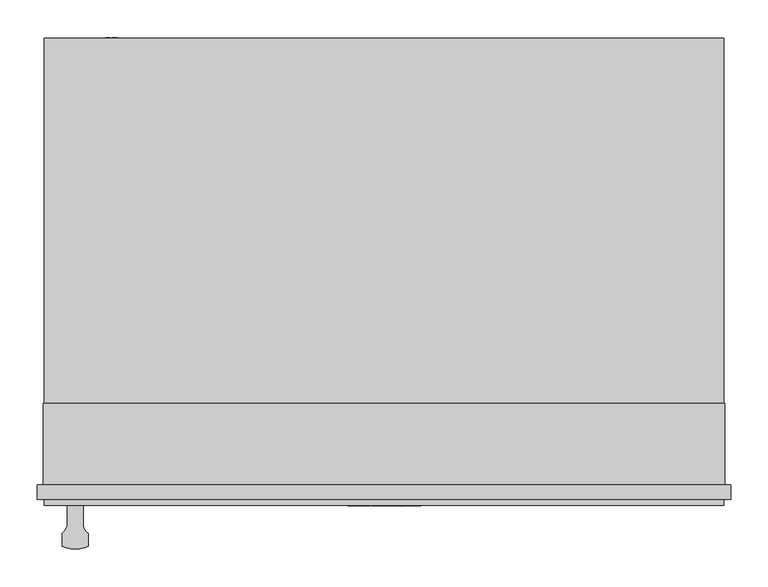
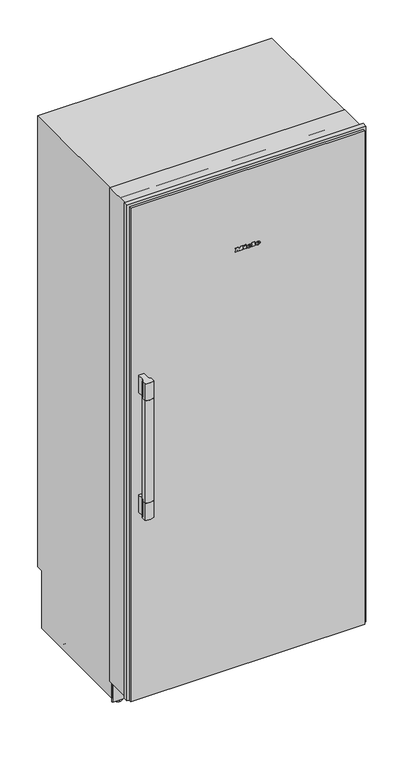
"""IFC4 building model written with IfcOpenShell, lengths in millimetres: proxy geometry, 11502840_USA_K2902SF : 36290211_USA_11502840_K2902SF."""

from ifc_helpers import new_model, si_unit, point, frame, frame_2d, origin, place, context, project, spatial, polyline, circle_curve, ellipse_curve, trimmed, segment, composite_curve, outline, extrude, faceted_brep, source, transform, mapped, element, save
from ifc_brep_helpers import plane_surface, cylinder_surface, revolved_surface, extruded_surface, advanced_brep


def specialty_equipment_e287ddbb(model_context):
    return source(origin(), model_context, "Body", "SolidModel", [
        extrude(outline(polyline([(-443.0, 68.0), (443.0, 68.0), (443.0, 21.0), (-443.0, 21.0), (-443.0, 68.0)])), frame((0.0, 0.0, 265.0), z_axis=(0.0, 0.0, 1.0), x_axis=(1.0, 0.0, 0.0)), (0.0, 0.0, 1.0), 1771.0),
        extrude(outline(polyline([(-289.0, 50.0), (289.0, 50.0), (289.0, 21.0), (-289.0, 21.0), (-289.0, 50.0)])), frame((0.0, 0.0, 2036.0), z_axis=(0.0, 0.0, 1.0), x_axis=(1.0, 0.0, 0.0)), (0.0, 0.0, 1.0), 56.0),
        extrude(outline(polyline([(265.0, 21.0), (265.0, 0.0), (265.0, -21.0), (224.0, -21.0), (224.0, -6.5), (99.0, -6.5), (99.0, 0.0), (99.0, 6.5), (224.0, 6.5), (224.0, 21.0), (265.0, 21.0)])), frame((0.0, 21.0, 0.0), z_axis=(0.0, 1.0, 0.0), x_axis=(0.0, 0.0, 1.0)), (0.0, 0.0, 1.0), 54.0),
        extrude(outline(polyline([(-454.0, 21.0), (454.0, 21.0), (454.0, 0.0), (-454.0, 0.0), (-454.0, 21.0)])), frame((0.0, 0.0, 90.0), z_axis=(0.0, 0.0, 1.0), x_axis=(1.0, 0.0, 0.0)), (0.0, 0.0, 1.0), 2023.0),
        advanced_brep(
        [(-402.5, 0.0, 928.0), (-423.5, 0.0, 928.0), (-423.5, -24.4390599, 928.0), (-430.5, -37.4390599, 928.0), (-430.5, -55.0, 928.0), (-413.0, -59.0, 928.0), (-395.5, -55.0, 928.0), (-395.5, -37.4390599, 928.0), (-402.5, -24.4390599, 928.0), (-395.5, -37.4390599, 858.0), (-395.5, -55.0, 858.0), (-413.0, -59.0, 858.0), (-430.5, -55.0, 858.0), (-430.5, -37.4390599, 858.0), (-423.5, -24.4390599, 858.0), (-423.5, 0.0, 858.0), (-402.5, 0.0, 858.0), (-402.5, -24.4390599, 858.0)],
        [
            (0, 1),
            (1, 2),
            (2, 3, circle_curve(frame((-439.0714286, -24.4390599, 928.0), z_axis=(0.0, 0.0, -1.0), x_axis=(-1.0, 0.0, 0.0)), 15.5714286)),
            (3, 4),
            (4, 5, circle_curve(frame((-413.0, -18.71875, 928.0), z_axis=(0.0, 0.0, 1.0), x_axis=(-1.0, 0.0, 0.0)), 40.28125)),
            (5, 6, circle_curve(frame((-413.0, -18.71875, 928.0), z_axis=(0.0, 0.0, 1.0), x_axis=(-1.0, 0.0, 0.0)), 40.28125)),
            (6, 7),
            (7, 8, circle_curve(frame((-386.9285714, -24.4390599, 928.0), z_axis=(0.0, 0.0, -1.0), x_axis=(-1.0, 0.0, 0.0)), 15.5714286)),
            (8, 0),
            (9, 10),
            (10, 11, circle_curve(frame((-413.0, -18.71875, 858.0), z_axis=(0.0, 0.0, -1.0), x_axis=(-1.0, 0.0, 0.0)), 40.28125)),
            (11, 12, circle_curve(frame((-413.0, -18.71875, 858.0), z_axis=(0.0, 0.0, -1.0), x_axis=(-1.0, 0.0, 0.0)), 40.28125)),
            (12, 13),
            (13, 14, circle_curve(frame((-439.0714286, -24.4390599, 858.0), z_axis=(0.0, 0.0, 1.0), x_axis=(-1.0, 0.0, 0.0)), 15.5714286)),
            (14, 15),
            (15, 16),
            (16, 17),
            (17, 9, circle_curve(frame((-386.9285714, -24.4390599, 858.0), z_axis=(0.0, 0.0, 1.0), x_axis=(-1.0, 0.0, 0.0)), 15.5714286)),
            (0, 16),
            (15, 1),
            (3, 13),
            (12, 4),
            (6, 10),
            (9, 7),
            (14, 2),
            (8, 17),
        ],
        [
            plane_surface(frame((-430.5, 0.0, 928.0), z_axis=(0.0, 0.0, 1.0), x_axis=(-1.0, 0.0, 0.0))),
            plane_surface(frame((-430.5, 0.0, 858.0), z_axis=(0.0, 0.0, -1.0), x_axis=(1.0, 0.0, 0.0))),
            plane_surface(frame((-395.5, 0.0, 928.0), z_axis=(0.0, 1.0, 0.0), x_axis=(0.0, 0.0, -1.0))),
            plane_surface(frame((-430.5, 0.0, 928.0), z_axis=(-1.0, 0.0, 0.0), x_axis=(0.0, 0.0, -1.0))),
            plane_surface(frame((-395.5, -59.0, 928.0), z_axis=(1.0, 0.0, 0.0), x_axis=(0.0, 0.0, -1.0))),
            plane_surface(frame((-423.5, -24.4390599, 1418.0), z_axis=(-1.0, 0.0, 0.0), x_axis=(0.0, 0.0, -1.0))),
            plane_surface(frame((-402.5, 0.0, 1418.0), z_axis=(1.0, 0.0, 0.0), x_axis=(0.0, 0.0, -1.0))),
            cylinder_surface(frame((-413.0, -18.71875, 858.0), z_axis=(0.0, 0.0, -1.0), x_axis=(-1.0, 0.0, 0.0)), 40.28125),
            revolved_surface(polyline([(-454.6428572, -24.4390599, 928.0), (-454.6428572, -24.4390599, 858.0)]), (-439.0714286, -24.4390599, 858.0), (0.0, 0.0, 1.0)),
            revolved_surface(polyline([(-402.5, -24.4390599, 928.0), (-402.5, -24.4390599, 858.0)]), (-386.9285714, -24.4390599, 858.0), (0.0, 0.0, 1.0)),
        ],
        [
            (0, [[1, 2, 3, 4, 5, 6, 7, 8, 9]]),
            (1, [[10, 11, 12, 13, 14, 15, 16, 17, 18]]),
            (2, [[-1, 19, -16, 20]]),
            (3, [[-4, 21, -13, 22]]),
            (4, [[-7, 23, -10, 24]]),
            (5, [[25, -2, -20, -15]]),
            (6, [[26, -17, -19, -9]]),
            (7, [[-5, -22, -12, -11, -23, -6]]),
            (8, [[-25, -14, -21, -3]]),
            (9, [[-26, -8, -24, -18]]),
        ],
    ),
        advanced_brep(
        [(-395.5, -37.4390599, 928.0), (-395.5, -55.0, 928.0), (-413.0, -59.0, 928.0), (-430.5, -55.0, 928.0), (-430.5, -37.4390599, 928.0), (-428.6400312, -36.0, 928.0), (-397.3599688, -36.0, 928.0), (-397.3599688, -36.0, 1348.0), (-428.6400312, -36.0, 1348.0), (-430.5, -37.4390599, 1348.0), (-430.5, -55.0, 1348.0), (-413.0, -59.0, 1348.0), (-395.5, -55.0, 1348.0), (-395.5, -37.4390599, 1348.0)],
        [
            (0, 1),
            (1, 2, circle_curve(frame((-413.0, -18.71875, 928.0), z_axis=(0.0, 0.0, -1.0), x_axis=(-1.0, 0.0, 0.0)), 40.28125)),
            (2, 3, circle_curve(frame((-413.0, -18.71875, 928.0), z_axis=(0.0, 0.0, -1.0), x_axis=(-1.0, 0.0, 0.0)), 40.28125)),
            (3, 4),
            (4, 5, circle_curve(frame((-439.0714286, -24.4390599, 928.0), z_axis=(0.0, 0.0, 1.0), x_axis=(-1.0, 0.0, 0.0)), 15.5714286)),
            (5, 6),
            (6, 0, circle_curve(frame((-386.9285714, -24.4390599, 928.0), z_axis=(0.0, 0.0, 1.0), x_axis=(-1.0, 0.0, 0.0)), 15.5714286)),
            (7, 8),
            (8, 9, circle_curve(frame((-439.0714286, -24.4390599, 1348.0), z_axis=(0.0, 0.0, -1.0), x_axis=(-1.0, 0.0, 0.0)), 15.5714286)),
            (9, 10),
            (10, 11, circle_curve(frame((-413.0, -18.71875, 1348.0), z_axis=(0.0, 0.0, 1.0), x_axis=(-1.0, 0.0, 0.0)), 40.28125)),
            (11, 12, circle_curve(frame((-413.0, -18.71875, 1348.0), z_axis=(0.0, 0.0, 1.0), x_axis=(-1.0, 0.0, 0.0)), 40.28125)),
            (12, 13),
            (13, 7, circle_curve(frame((-386.9285714, -24.4390599, 1348.0), z_axis=(0.0, 0.0, -1.0), x_axis=(-1.0, 0.0, 0.0)), 15.5714286)),
            (0, 13),
            (12, 1),
            (3, 10),
            (9, 4),
            (5, 8),
            (7, 6),
        ],
        [
            plane_surface(frame((-395.5, -36.0, 928.0), z_axis=(0.0, 0.0, -1.0), x_axis=(0.0, -1.0, 0.0))),
            plane_surface(frame((-395.5, -36.0, 1348.0), z_axis=(0.0, 0.0, 1.0), x_axis=(0.0, 1.0, 0.0))),
            plane_surface(frame((-395.5, -36.0, 928.0), z_axis=(1.0, 0.0, 0.0), x_axis=(0.0, 0.0, 1.0))),
            plane_surface(frame((-430.5, -59.0, 928.0), z_axis=(-1.0, 0.0, 0.0), x_axis=(0.0, 0.0, 1.0))),
            plane_surface(frame((-430.5, -36.0, 928.0), z_axis=(0.0, 1.0, 0.0), x_axis=(0.0, 0.0, 1.0))),
            cylinder_surface(frame((-413.0, -18.71875, 858.0), z_axis=(0.0, 0.0, -1.0), x_axis=(-1.0, 0.0, 0.0)), 40.28125),
            revolved_surface(polyline([(-454.6428572, -24.4390599, 1348.0), (-454.6428572, -24.4390599, 928.0)]), (-439.0714286, -24.4390599, 858.0), (0.0, 0.0, 1.0)),
            revolved_surface(polyline([(-402.5, -24.4390599, 1348.0), (-402.5, -24.4390599, 928.0)]), (-386.9285714, -24.4390599, 858.0), (0.0, 0.0, 1.0)),
        ],
        [
            (0, [[1, 2, 3, 4, 5, 6, 7]]),
            (1, [[8, 9, 10, 11, 12, 13, 14]]),
            (2, [[-1, 15, -13, 16]]),
            (3, [[-4, 17, -10, 18]]),
            (4, [[-6, 19, -8, 20]]),
            (5, [[-2, -16, -12, -11, -17, -3]]),
            (6, [[-5, -18, -9, -19]]),
            (7, [[-7, -20, -14, -15]]),
        ],
    ),
        advanced_brep(
        [(-395.5, -37.4390599, 1348.0), (-395.5, -55.0, 1348.0), (-413.0, -59.0, 1348.0), (-430.5, -55.0, 1348.0), (-430.5, -37.4390599, 1348.0), (-423.5, -24.4390599, 1348.0), (-423.5, 0.0, 1348.0), (-402.5, 0.0, 1348.0), (-402.5, -24.4390599, 1348.0), (-402.5, 0.0, 1418.0), (-423.5, 0.0, 1418.0), (-423.5, -24.4390599, 1418.0), (-430.5, -37.4390599, 1418.0), (-430.5, -55.0, 1418.0), (-413.0, -59.0, 1418.0), (-395.5, -55.0, 1418.0), (-395.5, -37.4390599, 1418.0), (-402.5, -24.4390599, 1418.0)],
        [
            (0, 1),
            (1, 2, circle_curve(frame((-413.0, -18.71875, 1348.0), z_axis=(0.0, 0.0, -1.0), x_axis=(-1.0, 0.0, 0.0)), 40.28125)),
            (2, 3, circle_curve(frame((-413.0, -18.71875, 1348.0), z_axis=(0.0, 0.0, -1.0), x_axis=(-1.0, 0.0, 0.0)), 40.28125)),
            (3, 4),
            (4, 5, circle_curve(frame((-439.0714286, -24.4390599, 1348.0), z_axis=(0.0, 0.0, 1.0), x_axis=(-1.0, 0.0, 0.0)), 15.5714286)),
            (5, 6),
            (6, 7),
            (7, 8),
            (8, 0, circle_curve(frame((-386.9285714, -24.4390599, 1348.0), z_axis=(0.0, 0.0, 1.0), x_axis=(-1.0, 0.0, 0.0)), 15.5714286)),
            (9, 10),
            (10, 11),
            (11, 12, circle_curve(frame((-439.0714286, -24.4390599, 1418.0), z_axis=(0.0, 0.0, -1.0), x_axis=(-1.0, 0.0, 0.0)), 15.5714286)),
            (12, 13),
            (13, 14, circle_curve(frame((-413.0, -18.71875, 1418.0), z_axis=(0.0, 0.0, 1.0), x_axis=(-1.0, 0.0, 0.0)), 40.28125)),
            (14, 15, circle_curve(frame((-413.0, -18.71875, 1418.0), z_axis=(0.0, 0.0, 1.0), x_axis=(-1.0, 0.0, 0.0)), 40.28125)),
            (15, 16),
            (16, 17, circle_curve(frame((-386.9285714, -24.4390599, 1418.0), z_axis=(0.0, 0.0, -1.0), x_axis=(-1.0, 0.0, 0.0)), 15.5714286)),
            (17, 9),
            (6, 10),
            (9, 7),
            (3, 13),
            (12, 4),
            (0, 16),
            (15, 1),
            (5, 11),
            (17, 8),
        ],
        [
            plane_surface(frame((-430.5, 0.0, 1348.0), z_axis=(0.0, 0.0, -1.0), x_axis=(1.0, 0.0, 0.0))),
            plane_surface(frame((-430.5, 0.0, 1418.0), z_axis=(0.0, 0.0, 1.0), x_axis=(-1.0, 0.0, 0.0))),
            plane_surface(frame((-395.5, 0.0, 1418.0), z_axis=(0.0, 1.0, 0.0), x_axis=(0.0, 0.0, -1.0))),
            plane_surface(frame((-430.5, 0.0, 1418.0), z_axis=(-1.0, 0.0, 0.0), x_axis=(0.0, 0.0, -1.0))),
            plane_surface(frame((-395.5, -59.0, 1418.0), z_axis=(1.0, 0.0, 0.0), x_axis=(0.0, 0.0, -1.0))),
            plane_surface(frame((-423.5, -24.4390599, 1418.0), z_axis=(-1.0, 0.0, 0.0), x_axis=(0.0, 0.0, -1.0))),
            plane_surface(frame((-402.5, 0.0, 1418.0), z_axis=(1.0, 0.0, 0.0), x_axis=(0.0, 0.0, -1.0))),
            cylinder_surface(frame((-413.0, -18.71875, 858.0), z_axis=(0.0, 0.0, -1.0), x_axis=(-1.0, 0.0, 0.0)), 40.28125),
            revolved_surface(polyline([(-454.6428572, -24.4390599, 1418.0), (-454.6428572, -24.4390599, 1348.0)]), (-439.0714286, -24.4390599, 858.0), (0.0, 0.0, 1.0)),
            revolved_surface(polyline([(-402.5, -24.4390599, 1418.0), (-402.5, -24.4390599, 1348.0)]), (-386.9285714, -24.4390599, 858.0), (0.0, 0.0, 1.0)),
        ],
        [
            (0, [[1, 2, 3, 4, 5, 6, 7, 8, 9]]),
            (1, [[10, 11, 12, 13, 14, 15, 16, 17, 18]]),
            (2, [[-7, 19, -10, 20]]),
            (3, [[-4, 21, -13, 22]]),
            (4, [[-1, 23, -16, 24]]),
            (5, [[25, -11, -19, -6]]),
            (6, [[26, -8, -20, -18]]),
            (7, [[-2, -24, -15, -14, -21, -3]]),
            (8, [[-25, -5, -22, -12]]),
            (9, [[-26, -17, -23, -9]]),
        ],
    ),
        advanced_brep(
        [(38.22, -1.0, 1795.792), (38.22, -1.0, 1797.408), (48.924, -1.0, 1797.408), (30.3, -1.0, 1797.408), (34.7, -1.0, 1792.0), (48.652, -1.0, 1795.792), (43.82, -1.0, 1795.792), (40.012, -1.0, 1794.0), (38.22, -1.0, 1799.456), (38.22, -1.0, 1801.2), (40.956, -1.0, 1801.2), (40.956, -1.0, 1799.456), (38.22, 0.0, 1795.792), (40.012, 0.0, 1794.0), (43.82, 0.0, 1795.792), (48.652, 0.0, 1795.792), (34.7, 0.0, 1792.0), (30.3, 0.0, 1797.408), (48.924, 0.0, 1797.408), (38.22, 0.0, 1797.408), (38.22, 0.0, 1799.456), (40.956, 0.0, 1799.456), (40.956, 0.0, 1801.2), (38.22, 0.0, 1801.2)],
        [
            (0, 1),
            (1, 2),
            (2, 3, ellipse_curve(frame((39.612, -1.0, 1797.408), z_axis=(0.0, -1.0, 0.0), x_axis=(-1.0, 0.0, 0.0)), 9.312, 7.696)),
            (3, 4, circle_curve(frame((36.4920873, -1.0, 1797.952), z_axis=(0.0, -1.0, 0.0), x_axis=(0.0, 0.0, -1.0)), 6.2159376)),
            (4, 5, circle_curve(frame((39.4255872, -1.0, 1802.176), z_axis=(0.0, -1.0, 0.0), x_axis=(0.0, 0.0, -1.0)), 11.2197215)),
            (5, 6),
            (6, 7, circle_curve(frame((40.7941176, -1.0, 1797.28), z_axis=(0.0, 1.0, 0.0), x_axis=(0.0, 0.0, -1.0)), 3.3719591)),
            (7, 0, circle_curve(frame((40.012, -1.0, 1795.792), z_axis=(0.0, 1.0, 0.0), x_axis=(0.0, 0.0, -1.0)), 1.792)),
            (8, 9),
            (9, 10, circle_curve(frame((39.588, -1.0, 1801.2), z_axis=(0.0, 1.0, 0.0), x_axis=(0.0, 0.0, -1.0)), 1.368)),
            (10, 11),
            (11, 8),
            (12, 13, circle_curve(frame((40.012, 0.0, 1795.792), z_axis=(0.0, -1.0, 0.0), x_axis=(0.0, 0.0, -1.0)), 1.792)),
            (13, 14, circle_curve(frame((40.7941176, 0.0, 1797.28), z_axis=(0.0, -1.0, 0.0), x_axis=(0.0, 0.0, -1.0)), 3.3719591)),
            (14, 15),
            (15, 16, circle_curve(frame((39.4255872, 0.0, 1802.176), z_axis=(0.0, 1.0, 0.0), x_axis=(0.0, 0.0, -1.0)), 11.2197215)),
            (16, 17, circle_curve(frame((36.4920873, 0.0, 1797.952), z_axis=(0.0, 1.0, 0.0), x_axis=(0.0, 0.0, -1.0)), 6.2159376)),
            (17, 18, ellipse_curve(frame((39.612, 0.0, 1797.408), z_axis=(0.0, 1.0, 0.0), x_axis=(-1.0, 0.0, 0.0)), 9.312, 7.696)),
            (18, 19),
            (19, 12),
            (20, 21),
            (21, 22),
            (22, 23, circle_curve(frame((39.588, 0.0, 1801.2), z_axis=(0.0, -1.0, 0.0), x_axis=(0.0, 0.0, -1.0)), 1.368)),
            (23, 20),
            (0, 12),
            (19, 1),
            (18, 2),
            (5, 15),
            (14, 6),
            (17, 3),
            (13, 7),
            (16, 4),
            (8, 20),
            (23, 9),
            (22, 10),
            (21, 11),
        ],
        [
            plane_surface(frame((38.22, -1.0, 1797.408), z_axis=(0.0, -1.0, 0.0), x_axis=(0.0, 0.0, 1.0))),
            plane_surface(frame((38.22, 0.0, 1797.408), z_axis=(0.0, 1.0, 0.0), x_axis=(0.0, 0.0, -1.0))),
            plane_surface(frame((38.22, -1.0, 1795.792), z_axis=(1.0, 0.0, 0.0), x_axis=(0.0, 1.0, 0.0))),
            plane_surface(frame((38.22, -1.0, 1797.408), z_axis=(0.0, 0.0, -1.0), x_axis=(0.0, 1.0, 0.0))),
            plane_surface(frame((48.652, -1.0, 1795.792), z_axis=(0.0, 0.0, 1.0), x_axis=(0.0, 1.0, 0.0))),
            extruded_surface(trimmed(ellipse_curve(frame((39.612, 1.0, 1797.408), z_axis=(0.0, -1.0, 0.0), x_axis=(-1.0, 0.0, 0.0)), 9.312, 7.696), [point((48.924, 1.0, 1797.408))], [point((30.3, 1.0, 1797.408))], True, "CARTESIAN"), (0.0, -1.0, 0.0), 1.0),
            revolved_surface(polyline([(40.7941176, 0.0, 1793.9080409), (40.7941176, -1.0, 1793.9080409)]), (40.7941176, 0.0, 1797.28), (0.0, 1.0, 0.0)),
            revolved_surface(polyline([(40.012, 0.0, 1794.0), (40.012, -1.0, 1794.0)]), (40.012, 0.0, 1795.792), (0.0, 1.0, 0.0)),
            cylinder_surface(frame((36.4920873, 0.0, 1797.952), z_axis=(0.0, -1.0, 0.0), x_axis=(0.0, 0.0, -1.0)), 6.2159376),
            cylinder_surface(frame((39.4255872, 0.0, 1802.176), z_axis=(0.0, -1.0, 0.0), x_axis=(0.0, 0.0, -1.0)), 11.2197215),
            plane_surface(frame((38.22, -1.0, 1799.456), z_axis=(1.0, 0.0, 0.0), x_axis=(0.0, 1.0, 0.0))),
            revolved_surface(polyline([(39.588, 0.0, 1799.832), (39.588, -1.0, 1799.832)]), (39.588, 0.0, 1801.2), (0.0, 1.0, 0.0)),
            plane_surface(frame((40.956, -1.0, 1801.2), z_axis=(-1.0, 0.0, 0.0), x_axis=(0.0, 1.0, 0.0))),
            plane_surface(frame((40.956, -1.0, 1799.456), z_axis=(0.0, 0.0, 1.0), x_axis=(0.0, 1.0, 0.0))),
        ],
        [
            (0, [[1, 2, 3, 4, 5, 6, 7, 8], [9, 10, 11, 12]]),
            (1, [[13, 14, 15, 16, 17, 18, 19, 20], [21, 22, 23, 24]]),
            (2, [[-1, 25, -20, 26]]),
            (3, [[-2, -26, -19, 27]]),
            (4, [[-6, 28, -15, 29]]),
            (5, [[-3, -27, -18, 30]]),
            (6, [[-7, -29, -14, 31]]),
            (7, [[-8, -31, -13, -25]]),
            (8, [[-4, -30, -17, 32]]),
            (9, [[-5, -32, -16, -28]]),
            (10, [[-9, 33, -24, 34]]),
            (11, [[-10, -34, -23, 35]]),
            (12, [[-11, -35, -22, 36]]),
            (13, [[-12, -36, -21, -33]]),
        ],
    ),
        advanced_brep(
        [(4.828, -1.0, 1795.792), (4.828, -1.0, 1797.408), (15.532, -1.0, 1797.408), (-3.092, -1.0, 1797.408), (1.308, -1.0, 1792.0), (15.26, -1.0, 1795.792), (10.428, -1.0, 1795.792), (6.62, -1.0, 1794.0), (4.828, -1.0, 1799.456), (4.828, -1.0, 1801.2), (7.564, -1.0, 1801.2), (7.564, -1.0, 1799.456), (4.828, 0.0, 1795.792), (6.62, 0.0, 1794.0), (10.428, 0.0, 1795.792), (15.26, 0.0, 1795.792), (1.308, 0.0, 1792.0), (-3.092, 0.0, 1797.408), (15.532, 0.0, 1797.408), (4.828, 0.0, 1797.408), (4.828, 0.0, 1799.456), (7.564, 0.0, 1799.456), (7.564, 0.0, 1801.2), (4.828, 0.0, 1801.2)],
        [
            (0, 1),
            (1, 2),
            (2, 3, ellipse_curve(frame((6.22, -1.0, 1797.408), z_axis=(0.0, -1.0, 0.0), x_axis=(-1.0, 0.0, 0.0)), 9.312, 7.696)),
            (3, 4, circle_curve(frame((3.1000873, -1.0, 1797.952), z_axis=(0.0, -1.0, 0.0), x_axis=(0.0, 0.0, -1.0)), 6.2159376)),
            (4, 5, circle_curve(frame((6.0335872, -1.0, 1802.176), z_axis=(0.0, -1.0, 0.0), x_axis=(0.0, 0.0, -1.0)), 11.2197215)),
            (5, 6),
            (6, 7, circle_curve(frame((7.4021176, -1.0, 1797.28), z_axis=(0.0, 1.0, 0.0), x_axis=(0.0, 0.0, -1.0)), 3.3719591)),
            (7, 0, circle_curve(frame((6.62, -1.0, 1795.792), z_axis=(0.0, 1.0, 0.0), x_axis=(0.0, 0.0, -1.0)), 1.792)),
            (8, 9),
            (9, 10, circle_curve(frame((6.196, -1.0, 1801.2), z_axis=(0.0, 1.0, 0.0), x_axis=(0.0, 0.0, -1.0)), 1.368)),
            (10, 11),
            (11, 8),
            (12, 13, circle_curve(frame((6.62, 0.0, 1795.792), z_axis=(0.0, -1.0, 0.0), x_axis=(0.0, 0.0, -1.0)), 1.792)),
            (13, 14, circle_curve(frame((7.4021176, 0.0, 1797.28), z_axis=(0.0, -1.0, 0.0), x_axis=(0.0, 0.0, -1.0)), 3.3719591)),
            (14, 15),
            (15, 16, circle_curve(frame((6.0335872, 0.0, 1802.176), z_axis=(0.0, 1.0, 0.0), x_axis=(0.0, 0.0, -1.0)), 11.2197215)),
            (16, 17, circle_curve(frame((3.1000873, 0.0, 1797.952), z_axis=(0.0, 1.0, 0.0), x_axis=(0.0, 0.0, -1.0)), 6.2159376)),
            (17, 18, ellipse_curve(frame((6.22, 0.0, 1797.408), z_axis=(0.0, 1.0, 0.0), x_axis=(-1.0, 0.0, 0.0)), 9.312, 7.696)),
            (18, 19),
            (19, 12),
            (20, 21),
            (21, 22),
            (22, 23, circle_curve(frame((6.196, 0.0, 1801.2), z_axis=(0.0, -1.0, 0.0), x_axis=(0.0, 0.0, -1.0)), 1.368)),
            (23, 20),
            (0, 12),
            (19, 1),
            (18, 2),
            (5, 15),
            (14, 6),
            (17, 3),
            (13, 7),
            (16, 4),
            (8, 20),
            (23, 9),
            (22, 10),
            (21, 11),
        ],
        [
            plane_surface(frame((4.828, -1.0, 1797.408), z_axis=(0.0, -1.0, 0.0), x_axis=(0.0, 0.0, 1.0))),
            plane_surface(frame((4.828, 0.0, 1797.408), z_axis=(0.0, 1.0, 0.0), x_axis=(0.0, 0.0, -1.0))),
            plane_surface(frame((4.828, -1.0, 1795.792), z_axis=(1.0, 0.0, 0.0), x_axis=(0.0, 1.0, 0.0))),
            plane_surface(frame((4.828, -1.0, 1797.408), z_axis=(0.0, 0.0, -1.0), x_axis=(0.0, 1.0, 0.0))),
            plane_surface(frame((15.26, -1.0, 1795.792), z_axis=(0.0, 0.0, 1.0), x_axis=(0.0, 1.0, 0.0))),
            extruded_surface(trimmed(ellipse_curve(frame((6.22, 1.0, 1797.408), z_axis=(0.0, -1.0, 0.0), x_axis=(-1.0, 0.0, 0.0)), 9.312, 7.696), [point((15.532, 1.0, 1797.408))], [point((-3.092, 1.0, 1797.408))], True, "CARTESIAN"), (0.0, -1.0, 0.0), 1.0),
            revolved_surface(polyline([(7.4021176, 0.0, 1793.9080409), (7.4021176, -1.0, 1793.9080409)]), (7.4021176, 0.0, 1797.28), (0.0, 1.0, 0.0)),
            revolved_surface(polyline([(6.62, 0.0, 1794.0), (6.62, -1.0, 1794.0)]), (6.62, 0.0, 1795.792), (0.0, 1.0, 0.0)),
            cylinder_surface(frame((3.1000873, 0.0, 1797.952), z_axis=(0.0, -1.0, 0.0), x_axis=(0.0, 0.0, -1.0)), 6.2159376),
            cylinder_surface(frame((6.0335872, 0.0, 1802.176), z_axis=(0.0, -1.0, 0.0), x_axis=(0.0, 0.0, -1.0)), 11.2197215),
            plane_surface(frame((4.828, -1.0, 1799.456), z_axis=(1.0, 0.0, 0.0), x_axis=(0.0, 1.0, 0.0))),
            revolved_surface(polyline([(6.196, 0.0, 1799.832), (6.196, -1.0, 1799.832)]), (6.196, 0.0, 1801.2), (0.0, 1.0, 0.0)),
            plane_surface(frame((7.564, -1.0, 1801.2), z_axis=(-1.0, 0.0, 0.0), x_axis=(0.0, 1.0, 0.0))),
            plane_surface(frame((7.564, -1.0, 1799.456), z_axis=(0.0, 0.0, 1.0), x_axis=(0.0, 1.0, 0.0))),
        ],
        [
            (0, [[1, 2, 3, 4, 5, 6, 7, 8], [9, 10, 11, 12]]),
            (1, [[13, 14, 15, 16, 17, 18, 19, 20], [21, 22, 23, 24]]),
            (2, [[-1, 25, -20, 26]]),
            (3, [[-2, -26, -19, 27]]),
            (4, [[-6, 28, -15, 29]]),
            (5, [[-3, -27, -18, 30]]),
            (6, [[-7, -29, -14, 31]]),
            (7, [[-8, -31, -13, -25]]),
            (8, [[-4, -30, -17, 32]]),
            (9, [[-5, -32, -16, -28]]),
            (10, [[-9, 33, -24, 34]]),
            (11, [[-10, -34, -23, 35]]),
            (12, [[-11, -35, -22, 36]]),
            (13, [[-12, -36, -21, -33]]),
        ],
    ),
        extrude(outline(polyline([(1807.056, -12.66), (1804.464, -11.444), (1806.992, -6.02), (1809.584, -7.22), (1807.056, -12.66)])), frame((0.0, -1.0, 0.0), z_axis=(0.0, 1.0, 0.0), x_axis=(0.0, 0.0, 1.0)), (0.0, 0.0, 1.0), 1.0),
        extrude(outline(polyline([(1804.112, -16.612), (1801.248, -16.612), (1801.248, -14.708), (1794.688, -14.708), (1794.688, -16.612), (1792.0, -16.612), (1792.0, -3.988), (1794.688, -3.988), (1794.688, -5.844), (1804.112, -5.844), (1804.112, -16.612)])), frame((0.0, -1.0, 0.0), z_axis=(0.0, 1.0, 0.0), x_axis=(0.0, 0.0, 1.0)), (0.0, 0.0, 1.0), 1.0),
        extrude(outline(polyline([(1805.392, 16.428), (1805.392, 18.348), (1794.688, 18.348), (1794.688, 16.428), (1792.0, 16.428), (1792.0, 29.404), (1794.688, 29.404), (1794.688, 27.436), (1808.0, 27.436), (1808.0, 16.428), (1805.392, 16.428)])), frame((0.0, -1.0, 0.0), z_axis=(0.0, 1.0, 0.0), x_axis=(0.0, 0.0, 1.0)), (0.0, 0.0, 1.0), 1.0),
        extrude(outline(polyline([(1805.392, -48.5), (1805.392, -46.564), (1794.688, -46.564), (1794.688, -48.5), (1792.0, -48.5), (1792.0, -41.46), (1794.688, -41.46), (1794.688, -43.38), (1801.4431247, -43.38), (1792.0, -36.228), (1801.8152223, -29.044), (1794.688, -29.044), (1794.688, -31.012), (1792.0, -31.012), (1792.0, -18.244), (1794.688, -18.244), (1794.688, -20.276), (1805.392, -20.276), (1805.392, -18.244), (1808.0, -18.244), (1808.0, -27.988), (1802.0, -32.66), (1808.0, -37.348), (1808.0, -48.5), (1805.392, -48.5)])), frame((0.0, -1.0, 0.0), z_axis=(0.0, 1.0, 0.0), x_axis=(0.0, 0.0, 1.0)), (0.0, 0.0, 1.0), 1.0),
        extrude(outline(polyline([(108.0, 1998.0), (565.0, 1998.0), (565.0, 1791.0), (496.0, 1791.0), (468.0, 1868.0), (222.3701279, 1868.0), (177.3150905, 1940.0880598), (108.0, 1949.0), (108.0, 1998.0)])), frame((-408.0, 0.0, 0.0), z_axis=(1.0, 0.0, 0.0), x_axis=(0.0, 1.0, 0.0)), (0.0, 0.0, 1.0), 816.0),
        extrude(outline(polyline([(217.9886114, 1875.0), (216.809433, 1875.0), (179.6921935, 1934.4), (180.8713719, 1934.4), (217.9886114, 1875.0)])), frame((-69.0, 0.0, 0.0), z_axis=(1.0, 0.0, 0.0), x_axis=(0.0, 1.0, 0.0)), (0.0, 0.0, 1.0), 138.0),
        extrude(outline(polyline([(2095.0, 447.5), (2095.0, 292.5), (2047.0, 292.5), (2047.0, 298.5), (2036.5, 298.5), (2036.5, 413.5), (2047.0, 413.5), (2047.0, 447.5), (2095.0, 447.5)])), frame((0.0, 21.0, 0.0), z_axis=(0.0, 1.0, 0.0), x_axis=(0.0, 0.0, 1.0)), (0.0, 0.0, 1.0), 47.0),
        extrude(outline(polyline([(254.0, 292.5), (206.0, 292.5), (206.0, 447.5), (254.0, 447.5), (254.0, 413.5), (264.0, 413.5), (264.0, 298.5), (254.0, 298.5), (254.0, 292.5)])), frame((0.0, 21.0, 0.0), z_axis=(0.0, 1.0, 0.0), x_axis=(0.0, 0.0, 1.0)), (0.0, 0.0, 1.0), 54.0),
        extrude(outline(polyline([(99.0373308, -363.7645771), (97.7615342, -363.7645771), (97.7615342, -357.8195541), (94.7968516, -357.8195541), (94.7968516, -363.469579), (93.5246295, -363.469579), (93.5246295, -357.8415693), (90.2570046, -357.8415693), (90.2570046, -363.9619689), (88.9546219, -363.9619689), (88.9546219, -356.5443524), (99.0373308, -356.5443524), (99.0373308, -363.7645771)])), frame((0.0, 625.0, 0.0), z_axis=(0.0, 1.0, 0.0), x_axis=(0.0, 0.0, 1.0)), (0.0, 0.0, 1.0), 1.0),
        extrude(outline(polyline([(99.0458, -367.0619704), (90.2663944, -367.0619704), (90.2663944, -372.1145879), (89.0134802, -372.1145879), (89.0134802, -365.8423809), (99.0458, -365.8423809), (99.0458, -367.0619704)])), frame((0.0, 625.0, 0.0), z_axis=(0.0, 1.0, 0.0), x_axis=(0.0, 0.0, 1.0)), (0.0, 0.0, 1.0), 1.0),
        extrude(outline(composite_curve([segment(trimmed(circle_curve(frame_2d((94.0, -364.0)), 7.5), [point((86.5, -364.0))], [point((101.5, -364.0))], False, "CARTESIAN"), True, "CONTINUOUS"), segment(trimmed(circle_curve(frame_2d((94.0, -364.0)), 7.5), [point((101.5, -364.0))], [point((86.5, -364.0))], False, "CARTESIAN"), True, "CONTINUOUS")], self_intersect=False)), frame((0.0, 598.0, 0.0), z_axis=(0.0, 1.0, 0.0), x_axis=(0.0, 0.0, 1.0)), (0.0, 0.0, 1.0), 27.0),
        extrude(outline(polyline([(-454.0, 125.0), (454.0, 125.0), (454.0, 120.0), (-454.0, 120.0), (-454.0, 125.0)])), frame((0.0, 0.0, 14.0), z_axis=(0.0, 0.0, 1.0), x_axis=(1.0, 0.0, 0.0)), (0.0, 0.0, 1.0), 83.0),
        advanced_brep(
        [(-420.0, 160.0, 0.0), (-420.0, 130.0, 0.0), (-420.0, 160.0, 7.0), (-420.0, 130.0, 7.0), (-420.0, 149.7, 7.0), (-420.0, 140.3, 7.0), (-420.0, 149.7, 28.0), (-420.0, 140.3, 28.0)],
        [
            (0, 1, circle_curve(frame((-420.0, 145.0, 0.0), z_axis=(0.0, 0.0, -1.0), x_axis=(1.0, 0.0, 0.0)), 15.0)),
            (1, 0, circle_curve(frame((-420.0, 145.0, 0.0), z_axis=(0.0, 0.0, -1.0), x_axis=(1.0, 0.0, 0.0)), 15.0)),
            (2, 3, circle_curve(frame((-420.0, 145.0, 7.0), z_axis=(0.0, 0.0, 1.0), x_axis=(1.0, 0.0, 0.0)), 15.0)),
            (3, 2, circle_curve(frame((-420.0, 145.0, 7.0), z_axis=(0.0, 0.0, 1.0), x_axis=(1.0, 0.0, 0.0)), 15.0)),
            (4, 5, circle_curve(frame((-420.0, 145.0, 7.0), z_axis=(0.0, 0.0, -1.0), x_axis=(0.0, -1.0, 0.0)), 4.7)),
            (5, 4, circle_curve(frame((-420.0, 145.0, 7.0), z_axis=(0.0, 0.0, -1.0), x_axis=(0.0, -1.0, 0.0)), 4.7)),
            (0, 2),
            (3, 1),
            (6, 7, circle_curve(frame((-420.0, 145.0, 28.0), z_axis=(0.0, 0.0, 1.0), x_axis=(0.0, -1.0, 0.0)), 4.7)),
            (7, 6, circle_curve(frame((-420.0, 145.0, 28.0), z_axis=(0.0, 0.0, 1.0), x_axis=(0.0, -1.0, 0.0)), 4.7)),
            (7, 5),
            (4, 6),
        ],
        [
            plane_surface(frame((-405.0, 145.0, 0.0), z_axis=(0.0, 0.0, -1.0), x_axis=(0.0, -1.0, 0.0))),
            plane_surface(frame((-405.0, 145.0, 7.0), z_axis=(0.0, 0.0, 1.0), x_axis=(0.0, 1.0, 0.0))),
            cylinder_surface(frame((-420.0, 145.0, 7.0), z_axis=(0.0, 0.0, -1.0), x_axis=(1.0, 0.0, 0.0)), 15.0),
            plane_surface(frame((-420.0, 140.3, 28.0), z_axis=(0.0, 0.0, 1.0), x_axis=(1.0, 0.0, 0.0))),
            cylinder_surface(frame((-420.0, 145.0, 28.0), z_axis=(0.0, 0.0, -1.0), x_axis=(0.0, -1.0, 0.0)), 4.7),
        ],
        [
            (0, [[1, 2]]),
            (1, [[3, 4], [5, 6]]),
            (2, [[-1, 7, -4, 8]]),
            (2, [[-2, -8, -3, -7]]),
            (3, [[9, 10]]),
            (4, [[-10, 11, -5, 12]]),
            (4, [[-9, -12, -6, -11]]),
        ],
    ),
        advanced_brep(
        [(420.0, 160.0, 0.0), (420.0, 130.0, 0.0), (420.0, 160.0, 7.0), (420.0, 130.0, 7.0), (420.0, 149.7, 7.0), (420.0, 140.3, 7.0), (420.0, 149.7, 28.0), (420.0, 140.3, 28.0)],
        [
            (0, 1, circle_curve(frame((420.0, 145.0, 0.0), z_axis=(0.0, 0.0, -1.0), x_axis=(1.0, 0.0, 0.0)), 15.0)),
            (1, 0, circle_curve(frame((420.0, 145.0, 0.0), z_axis=(0.0, 0.0, -1.0), x_axis=(1.0, 0.0, 0.0)), 15.0)),
            (2, 3, circle_curve(frame((420.0, 145.0, 7.0), z_axis=(0.0, 0.0, 1.0), x_axis=(1.0, 0.0, 0.0)), 15.0)),
            (3, 2, circle_curve(frame((420.0, 145.0, 7.0), z_axis=(0.0, 0.0, 1.0), x_axis=(1.0, 0.0, 0.0)), 15.0)),
            (4, 5, circle_curve(frame((420.0, 145.0, 7.0), z_axis=(0.0, 0.0, -1.0), x_axis=(0.0, -1.0, 0.0)), 4.7)),
            (5, 4, circle_curve(frame((420.0, 145.0, 7.0), z_axis=(0.0, 0.0, -1.0), x_axis=(0.0, -1.0, 0.0)), 4.7)),
            (0, 2),
            (3, 1),
            (6, 7, circle_curve(frame((420.0, 145.0, 28.0), z_axis=(0.0, 0.0, 1.0), x_axis=(0.0, -1.0, 0.0)), 4.7)),
            (7, 6, circle_curve(frame((420.0, 145.0, 28.0), z_axis=(0.0, 0.0, 1.0), x_axis=(0.0, -1.0, 0.0)), 4.7)),
            (7, 5),
            (4, 6),
        ],
        [
            plane_surface(frame((-405.0, 145.0, 0.0), z_axis=(0.0, 0.0, -1.0), x_axis=(0.0, -1.0, 0.0))),
            plane_surface(frame((-405.0, 145.0, 7.0), z_axis=(0.0, 0.0, 1.0), x_axis=(0.0, 1.0, 0.0))),
            cylinder_surface(frame((420.0, 145.0, 7.0), z_axis=(0.0, 0.0, -1.0), x_axis=(1.0, 0.0, 0.0)), 15.0),
            plane_surface(frame((-420.0, 140.3, 28.0), z_axis=(0.0, 0.0, 1.0), x_axis=(1.0, 0.0, 0.0))),
            cylinder_surface(frame((420.0, 145.0, 28.0), z_axis=(0.0, 0.0, -1.0), x_axis=(0.0, -1.0, 0.0)), 4.7),
        ],
        [
            (0, [[1, 2]]),
            (1, [[3, 4], [5, 6]]),
            (2, [[-1, 7, -4, 8]]),
            (2, [[-2, -8, -3, -7]]),
            (3, [[9, 10]]),
            (4, [[-10, 11, -5, 12]]),
            (4, [[-9, -12, -6, -11]]),
        ],
    ),
        advanced_brep(
        [(454.0, 68.0, 2114.0), (454.0, 68.0, 267.0), (454.0, 75.0, 267.0), (454.0, 75.0, 97.0), (454.0, 125.0, 97.0), (454.0, 125.0, 28.0), (454.0, 598.0, 28.0), (454.0, 598.0, 263.0), (454.0, 625.0, 263.0), (454.0, 625.0, 2114.0), (-454.0, 68.0, 2114.0), (-454.0, 625.0, 2114.0), (-454.0, 625.0, 263.0), (-454.0, 598.0, 263.0), (-454.0, 598.0, 28.0), (-454.0, 125.0, 28.0), (-454.0, 125.0, 97.0), (-454.0, 75.0, 97.0), (-454.0, 75.0, 267.0), (-454.0, 68.0, 267.0), (394.0, 598.0, 28.0), (394.0, 598.0, 14.0), (-394.0, 598.0, 14.0), (-394.0, 598.0, 28.0), (394.0, 125.0, 14.0), (-394.0, 125.0, 14.0), (-394.0, 125.0, 28.0), (394.0, 125.0, 28.0), (408.0, 68.0, 1998.0), (408.0, 68.0, 343.0), (-408.0, 68.0, 343.0), (-408.0, 68.0, 1998.0), (408.0, 565.0, 1998.0), (-408.0, 565.0, 1998.0), (-408.0, 565.0, 343.0), (408.0, 565.0, 343.0), (-412.5, 223.8193473, 28.0), (-431.5, 223.8193473, 28.0), (-431.5, 174.1806527, 28.0), (-412.5, 174.1806527, 28.0), (-432.0, 546.8193473, 28.0), (-432.0, 497.1806527, 28.0), (-416.0, 497.1806527, 28.0), (-416.0, 546.8193473, 28.0), (431.5, 174.1806527, 28.0), (431.5, 223.8193473, 28.0), (412.5, 223.8193473, 28.0), (412.5, 174.1806527, 28.0), (416.0, 546.8193473, 28.0), (416.0, 497.1806527, 28.0), (432.0, 497.1806527, 28.0), (432.0, 546.8193473, 28.0), (-412.5, 224.0, 25.0), (-412.5, 174.0, 25.0), (-431.5, 174.0, 25.0), (-431.5, 224.0, 25.0), (-412.5, 199.0, 25.0), (-431.5, 199.0, 25.0), (431.5, 199.0, 25.0), (431.5, 174.0, 25.0), (431.5, 224.0, 25.0), (412.5, 224.0, 25.0), (412.5, 174.0, 25.0), (412.5, 199.0, 25.0), (-432.0, 547.0, 25.0), (-432.0, 497.0, 25.0), (-432.0, 522.0, 25.0), (-416.0, 547.0, 25.0), (-416.0, 497.0, 25.0), (-416.0, 522.0, 25.0), (416.0, 547.0, 25.0), (416.0, 497.0, 25.0), (416.0, 522.0, 25.0), (432.0, 547.0, 25.0), (432.0, 497.0, 25.0), (432.0, 522.0, 25.0)],
        [
            (0, 1),
            (1, 2),
            (2, 3),
            (3, 4),
            (4, 5),
            (5, 6),
            (6, 7),
            (7, 8),
            (8, 9),
            (9, 0),
            (10, 11),
            (11, 12),
            (12, 13),
            (13, 14),
            (14, 15),
            (15, 16),
            (16, 17),
            (17, 18),
            (18, 19),
            (19, 10),
            (9, 11),
            (10, 0),
            (8, 12),
            (7, 13),
            (6, 20),
            (20, 21),
            (21, 22),
            (22, 23),
            (23, 14),
            (21, 24),
            (24, 25),
            (25, 22),
            (4, 16),
            (15, 26),
            (26, 25),
            (24, 27),
            (27, 5),
            (3, 17),
            (2, 18),
            (1, 19),
            (28, 29),
            (29, 30),
            (30, 31),
            (31, 28),
            (32, 33),
            (33, 34),
            (34, 35),
            (35, 32),
            (35, 29),
            (28, 32),
            (34, 30),
            (33, 31),
            (23, 26),
            (36, 37),
            (37, 38),
            (38, 39),
            (39, 36),
            (40, 41),
            (41, 42),
            (42, 43),
            (43, 40),
            (27, 20),
            (44, 45),
            (45, 46),
            (46, 47),
            (47, 44),
            (48, 49),
            (49, 50),
            (50, 51),
            (51, 48),
            (52, 53, circle_curve(frame((-412.5, 199.0, 25.0), z_axis=(-1.0, 0.0, 0.0), x_axis=(0.0, -1.0, 0.0)), 25.0)),
            (53, 54),
            (54, 55, circle_curve(frame((-431.5, 199.0, 25.0), z_axis=(1.0, 0.0, 0.0), x_axis=(0.0, -1.0, 0.0)), 25.0)),
            (55, 52),
            (53, 39, circle_curve(frame((-412.5, 199.0, 25.0), z_axis=(-1.0, 0.0, 0.0), x_axis=(0.0, -1.0, 0.0)), 25.0)),
            (38, 54, circle_curve(frame((-431.5, 199.0, 25.0), z_axis=(1.0, 0.0, 0.0), x_axis=(0.0, -1.0, 0.0)), 25.0)),
            (55, 37, circle_curve(frame((-431.5, 199.0, 25.0), z_axis=(1.0, 0.0, 0.0), x_axis=(0.0, -1.0, 0.0)), 25.0)),
            (36, 52, circle_curve(frame((-412.5, 199.0, 25.0), z_axis=(-1.0, 0.0, 0.0), x_axis=(0.0, -1.0, 0.0)), 25.0)),
            (52, 56),
            (56, 53),
            (54, 57),
            (57, 55),
            (58, 59),
            (59, 60, circle_curve(frame((431.5, 199.0, 25.0), z_axis=(1.0, 0.0, 0.0), x_axis=(0.0, -1.0, 0.0)), 25.0)),
            (60, 58),
            (60, 45, circle_curve(frame((431.5, 199.0, 25.0), z_axis=(1.0, 0.0, 0.0), x_axis=(0.0, -1.0, 0.0)), 25.0)),
            (44, 59, circle_curve(frame((431.5, 199.0, 25.0), z_axis=(1.0, 0.0, 0.0), x_axis=(0.0, -1.0, 0.0)), 25.0)),
            (61, 62, circle_curve(frame((412.5, 199.0, 25.0), z_axis=(-1.0, 0.0, 0.0), x_axis=(0.0, -1.0, 0.0)), 25.0)),
            (62, 63),
            (63, 61),
            (62, 47, circle_curve(frame((412.5, 199.0, 25.0), z_axis=(-1.0, 0.0, 0.0), x_axis=(0.0, -1.0, 0.0)), 25.0)),
            (46, 61, circle_curve(frame((412.5, 199.0, 25.0), z_axis=(-1.0, 0.0, 0.0), x_axis=(0.0, -1.0, 0.0)), 25.0)),
            (64, 65, circle_curve(frame((-432.0, 522.0, 25.0), z_axis=(-1.0, 0.0, 0.0), x_axis=(0.0, -1.0, 0.0)), 25.0)),
            (65, 66),
            (66, 64),
            (65, 41, circle_curve(frame((-432.0, 522.0, 25.0), z_axis=(-1.0, 0.0, 0.0), x_axis=(0.0, -1.0, 0.0)), 25.0)),
            (40, 64, circle_curve(frame((-432.0, 522.0, 25.0), z_axis=(-1.0, 0.0, 0.0), x_axis=(0.0, -1.0, 0.0)), 25.0)),
            (64, 67),
            (67, 68, circle_curve(frame((-416.0, 522.0, 25.0), z_axis=(-1.0, 0.0, 0.0), x_axis=(0.0, -1.0, 0.0)), 25.0)),
            (68, 65),
            (43, 67, circle_curve(frame((-416.0, 522.0, 25.0), z_axis=(-1.0, 0.0, 0.0), x_axis=(0.0, -1.0, 0.0)), 25.0)),
            (68, 42, circle_curve(frame((-416.0, 522.0, 25.0), z_axis=(-1.0, 0.0, 0.0), x_axis=(0.0, -1.0, 0.0)), 25.0)),
            (67, 69),
            (69, 68),
            (70, 71, circle_curve(frame((416.0, 522.0, 25.0), z_axis=(-1.0, 0.0, 0.0), x_axis=(0.0, -1.0, 0.0)), 25.0)),
            (71, 72),
            (72, 70),
            (71, 49, circle_curve(frame((416.0, 522.0, 25.0), z_axis=(-1.0, 0.0, 0.0), x_axis=(0.0, -1.0, 0.0)), 25.0)),
            (48, 70, circle_curve(frame((416.0, 522.0, 25.0), z_axis=(-1.0, 0.0, 0.0), x_axis=(0.0, -1.0, 0.0)), 25.0)),
            (70, 73),
            (73, 74, circle_curve(frame((432.0, 522.0, 25.0), z_axis=(-1.0, 0.0, 0.0), x_axis=(0.0, -1.0, 0.0)), 25.0)),
            (74, 71),
            (51, 73, circle_curve(frame((432.0, 522.0, 25.0), z_axis=(-1.0, 0.0, 0.0), x_axis=(0.0, -1.0, 0.0)), 25.0)),
            (74, 50, circle_curve(frame((432.0, 522.0, 25.0), z_axis=(-1.0, 0.0, 0.0), x_axis=(0.0, -1.0, 0.0)), 25.0)),
            (73, 75),
            (75, 74),
            (59, 62),
            (61, 60),
        ],
        [
            plane_surface(frame((454.0, 625.0, 2114.0), z_axis=(1.0, 0.0, 0.0), x_axis=(0.0, -1.0, 0.0))),
            plane_surface(frame((-454.0, 625.0, 2114.0), z_axis=(-1.0, 0.0, 0.0), x_axis=(0.0, 1.0, 0.0))),
            plane_surface(frame((-454.0, 68.0, 2114.0), z_axis=(0.0, 0.0, 1.0), x_axis=(1.0, 0.0, 0.0))),
            plane_surface(frame((-454.0, 625.0, 2114.0), z_axis=(0.0, 1.0, 0.0), x_axis=(1.0, 0.0, 0.0))),
            plane_surface(frame((-454.0, 625.0, 263.0), z_axis=(0.0, 0.0, -1.0), x_axis=(1.0, 0.0, 0.0))),
            plane_surface(frame((-454.0, 598.0, 263.0), z_axis=(0.0, 1.0, 0.0), x_axis=(1.0, 0.0, 0.0))),
            plane_surface(frame((-454.0, 598.0, 14.0), z_axis=(0.0, 0.0, -1.0), x_axis=(1.0, 0.0, 0.0))),
            plane_surface(frame((-454.0, 125.0, 14.0), z_axis=(0.0, -1.0, 0.0), x_axis=(1.0, 0.0, 0.0))),
            plane_surface(frame((-454.0, 125.0, 97.0), z_axis=(0.0, 0.0, -1.0), x_axis=(1.0, 0.0, 0.0))),
            plane_surface(frame((-454.0, 75.0, 97.0), z_axis=(0.0, -1.0, 0.0), x_axis=(1.0, 0.0, 0.0))),
            plane_surface(frame((-454.0, 75.0, 267.0), z_axis=(0.0, 0.0, -1.0), x_axis=(1.0, 0.0, 0.0))),
            plane_surface(frame((-454.0, 68.0, 267.0), z_axis=(0.0, -1.0, 0.0), x_axis=(1.0, 0.0, 0.0))),
            plane_surface(frame((408.0, 565.0, 1998.0), z_axis=(0.0, -1.0, 0.0), x_axis=(0.0, 0.0, -1.0))),
            plane_surface(frame((408.0, 565.0, 1998.0), z_axis=(-1.0, 0.0, 0.0), x_axis=(0.0, -1.0, 0.0))),
            plane_surface(frame((408.0, 565.0, 343.0), z_axis=(0.0, 0.0, 1.0), x_axis=(0.0, -1.0, 0.0))),
            plane_surface(frame((-408.0, 565.0, 343.0), z_axis=(1.0, 0.0, 0.0), x_axis=(0.0, -1.0, 0.0))),
            plane_surface(frame((-408.0, 565.0, 1998.0), z_axis=(0.0, 0.0, -1.0), x_axis=(0.0, -1.0, 0.0))),
            plane_surface(frame((-454.0, 625.0, 28.0), z_axis=(0.0, 0.0, -1.0), x_axis=(-1.0, 0.0, 0.0))),
            plane_surface(frame((-394.0, 125.0, 28.0), z_axis=(-1.0, 0.0, 0.0), x_axis=(0.0, 0.0, -1.0))),
            plane_surface(frame((394.0, 625.0, 28.0), z_axis=(1.0, 0.0, 0.0), x_axis=(0.0, 0.0, -1.0))),
            cylinder_surface(frame((-546.6988927, 199.0, 25.0), z_axis=(1.0, 0.0, 0.0), x_axis=(0.0, -1.0, 0.0)), 25.0),
            plane_surface(frame((-412.5, 199.0, 25.0), z_axis=(1.0, 0.0, 0.0), x_axis=(0.0, -1.0, 0.0))),
            plane_surface(frame((-431.5, 199.0, 25.0), z_axis=(-1.0, 0.0, 0.0), x_axis=(0.0, -1.0, 0.0))),
            plane_surface(frame((431.5, 199.0, 25.0), z_axis=(1.0, 0.0, 0.0), x_axis=(0.0, -1.0, 0.0))),
            plane_surface(frame((412.5, 199.0, 25.0), z_axis=(-1.0, 0.0, 0.0), x_axis=(0.0, -1.0, 0.0))),
            plane_surface(frame((-432.0, 522.0, 25.0), z_axis=(-1.0, 0.0, 0.0), x_axis=(0.0, -1.0, 0.0))),
            cylinder_surface(frame((-546.6988927, 522.0, 25.0), z_axis=(1.0, 0.0, 0.0), x_axis=(0.0, -1.0, 0.0)), 25.0),
            plane_surface(frame((-416.0, 522.0, 25.0), z_axis=(1.0, 0.0, 0.0), x_axis=(0.0, -1.0, 0.0))),
            plane_surface(frame((416.0, 522.0, 25.0), z_axis=(-1.0, 0.0, 0.0), x_axis=(0.0, -1.0, 0.0))),
            plane_surface(frame((432.0, 522.0, 25.0), z_axis=(1.0, 0.0, 0.0), x_axis=(0.0, -1.0, 0.0))),
        ],
        [
            (0, [[1, 2, 3, 4, 5, 6, 7, 8, 9, 10]]),
            (1, [[11, 12, 13, 14, 15, 16, 17, 18, 19, 20]]),
            (2, [[-10, 21, -11, 22]]),
            (3, [[-9, 23, -12, -21]]),
            (4, [[-8, 24, -13, -23]]),
            (5, [[-24, -7, 25, 26, 27, 28, 29, -14]]),
            (6, [[-27, 30, 31, 32]]),
            (7, [[33, -16, 34, 35, -31, 36, 37, -5]]),
            (8, [[-4, 38, -17, -33]]),
            (9, [[-3, 39, -18, -38]]),
            (10, [[-2, 40, -19, -39]]),
            (11, [[-1, -22, -20, -40], [41, 42, 43, 44]]),
            (12, [[45, 46, 47, 48]]),
            (13, [[-48, 49, -41, 50]]),
            (14, [[-47, 51, -42, -49]]),
            (15, [[-46, 52, -43, -51]]),
            (16, [[-45, -50, -44, -52]]),
            (17, [[53, -34, -15, -29], [54, 55, 56, 57], [58, 59, 60, 61]]),
            (17, [[62, -25, -6, -37], [63, 64, 65, 66], [67, 68, 69, 70]]),
            (18, [[-53, -28, -32, -35]]),
            (19, [[-62, -36, -30, -26]]),
            (20, [[71, 72, 73, 74]]),
            (20, [[-72, 75, -56, 76]]),
            (20, [[-74, 77, -54, 78]]),
            (21, [[-71, 79, 80]]),
            (21, [[-80, -79, -78, -57, -75]]),
            (22, [[-73, 81, 82]]),
            (22, [[-81, -76, -55, -77, -82]]),
            (23, [[83, 84, 85]]),
            (23, [[-83, -85, 86, -63, 87]]),
            (24, [[88, 89, 90]]),
            (24, [[-89, 91, -65, 92, -90]]),
            (25, [[93, 94, 95]]),
            (25, [[-94, 96, -58, 97, -95]]),
            (26, [[-93, 98, 99, 100]]),
            (26, [[-98, -97, -61, 101]]),
            (26, [[-100, 102, -59, -96]]),
            (27, [[-99, 103, 104]]),
            (27, [[-104, -103, -101, -60, -102]]),
            (28, [[105, 106, 107]]),
            (28, [[-106, 108, -67, 109, -107]]),
            (26, [[-105, 110, 111, 112]]),
            (26, [[-110, -109, -70, 113]]),
            (26, [[-112, 114, -68, -108]]),
            (29, [[-111, 115, 116]]),
            (29, [[-116, -115, -113, -69, -114]]),
            (20, [[-84, 117, -88, 118]]),
            (20, [[-117, -87, -66, -91]]),
            (20, [[-118, -92, -64, -86]]),
        ],
    ),
        faceted_brep([(-463.5, 27.0, 91.0), (-463.5, 27.0, 2123.0), (463.5, 27.0, 2123.0), (463.5, 27.0, 91.0), (455.7, 27.0, 91.0), (455.7, 27.0, 2115.0), (-455.7, 27.0, 2115.0), (-455.7, 27.0, 91.0), (454.0, 8.0, 2114.0), (454.0, 8.0, 91.0), (463.5, 8.0, 91.0), (463.5, 8.0, 2123.0), (-463.5, 8.0, 2123.0), (-463.5, 8.0, 91.0), (-454.0, 8.0, 91.0), (-454.0, 8.0, 2114.0), (454.0, 136.0, 2114.0), (454.0, 136.0, 91.0), (-454.0, 136.0, 91.0), (-454.0, 136.0, 2114.0), (-455.7, 136.0, 91.0), (455.7, 136.0, 91.0), (-455.7, 136.0, 2115.0), (455.7, 136.0, 2115.0)], [[[0, 1, 2, 3, 4, 5, 6, 7]], [[8, 9, 10, 11, 12, 13, 14, 15]], [[9, 8, 16, 17]], [[15, 14, 18, 19]], [[16, 8, 15, 19]], [[18, 14, 13, 0, 7, 20]], [[1, 0, 13, 12]], [[2, 1, 12, 11]], [[3, 2, 11, 10]], [[10, 9, 17, 21, 4, 3]], [[16, 19, 18, 20, 22, 23, 21, 17]], [[22, 20, 7, 6]], [[23, 22, 6, 5]], [[21, 23, 5, 4]]]),
    ])


if __name__ == "__main__":
    model = new_model("IFC4")
    model_context = context("Model", 3, world=origin())
    ifc_project = project(units=[si_unit("LENGTHUNIT", "METRE", prefix="MILLI")], contexts=[model_context])
    site = spatial("IfcSite", under=ifc_project)
    building = spatial("IfcBuilding", under=site)
    placement = place(None, origin())
    specialty_equipment_shape = specialty_equipment_e287ddbb(model_context)
    element("IfcBuildingElementProxy", 1, Name="11502840_USA_K2902SF : 36290211_USA_11502840_K2902SF", ObjectType="11502840_USA_K2902SF : 36290211_USA_11502840_K2902SF", at=placement, inside=building, context=model_context, shape_type="MappedRepresentation", body=[
        mapped(specialty_equipment_shape, transform((0.0, 0.0, 0.0), x_axis=(1.0, 0.0, 0.0), y_axis=(0.0, 1.0, 0.0), z_axis=(0.0, 0.0, 1.0))),
    ])
    save(model, "model.ifc")
